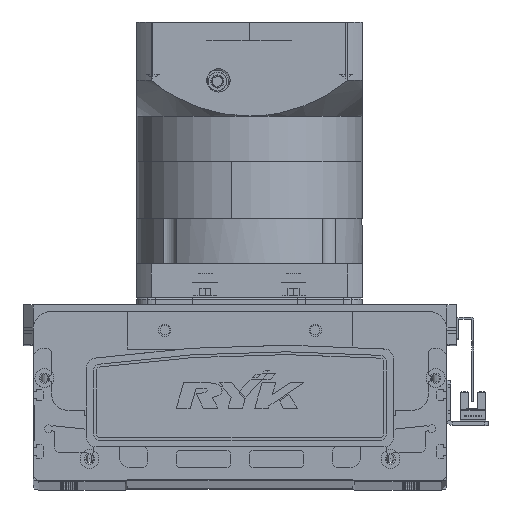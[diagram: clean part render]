
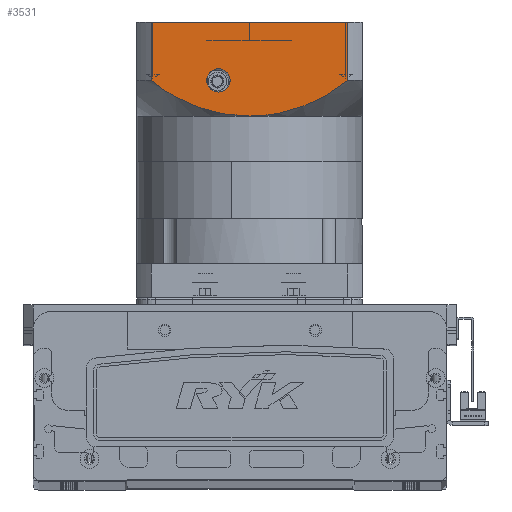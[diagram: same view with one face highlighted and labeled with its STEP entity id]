
A CAD part, top view. The second image highlights one B-rep face of the part: STEP entity #3531.
In plain terms, the highlighted planar face has unit normal (0, 0, 1) as drawn and (0, -1, 0) by its records, which use the part's own axes.
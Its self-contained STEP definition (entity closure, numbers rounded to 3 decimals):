
#7 = EDGE_CURVE ( 'NONE', #41147, #51037, #58910, .T. ) ;
#181 = CARTESIAN_POINT ( 'NONE',  ( 45.542, -60., -114.478 ) ) ;
#589 = CARTESIAN_POINT ( 'NONE',  ( -52.156, -60., -119.5 ) ) ;
#2094 = CARTESIAN_POINT ( 'NONE',  ( -35.342, -60., -108.587 ) ) ;
#2706 = CARTESIAN_POINT ( 'NONE',  ( 52.156, -60., -119.5 ) ) ;
#3531 = ADVANCED_FACE ( 'NONE', ( #8511, #17859 ), #68560, .T. ) ;
#3750 = EDGE_LOOP ( 'NONE', ( #32273, #46540 ) ) ;
#4028 = CARTESIAN_POINT ( 'NONE',  ( 4.753, -60., -100.5 ) ) ;
#4467 = CARTESIAN_POINT ( 'NONE',  ( 16.5, -60., -119.5 ) ) ;
#4567 = VECTOR ( 'NONE', #12443, 1000. ) ;
#4964 = CARTESIAN_POINT ( 'NONE',  ( 18.739, -60., -102.681 ) ) ;
#5374 = LINE ( 'NONE', #66420, #54530 ) ;
#5443 = CARTESIAN_POINT ( 'NONE',  ( 52.156, -60., -119.5 ) ) ;
#5573 = CARTESIAN_POINT ( 'NONE',  ( 52.156, -60., -150.5 ) ) ;
#7561 = CARTESIAN_POINT ( 'NONE',  ( -29.939, -60., -106.183 ) ) ;
#7788 = CARTESIAN_POINT ( 'NONE',  ( -52.156, -60., -119.5 ) ) ;
#8511 = FACE_OUTER_BOUND ( 'NONE', #69989, .T. ) ;
#9277 = CARTESIAN_POINT ( 'NONE',  ( 16.5, -60., -113.25 ) ) ;
#9742 = CARTESIAN_POINT ( 'NONE',  ( 16.426, -60., -102.169 ) ) ;
#10429 = CARTESIAN_POINT ( 'NONE',  ( 19.894, -60., -102.964 ) ) ;
#12443 = DIRECTION ( 'NONE',  ( 1., 0., 0. ) ) ;
#13068 = VERTEX_POINT ( 'NONE', #34150 ) ;
#13284 = CARTESIAN_POINT ( 'NONE',  ( -48.52, -60., -116.438 ) ) ;
#13740 = CARTESIAN_POINT ( 'NONE',  ( -32.118, -60., -107.084 ) ) ;
#14759 = B_SPLINE_CURVE_WITH_KNOTS ( 'NONE', 3,
 ( #36483, #4028, #41912, #42130, #9742, #4964, #10429, #26108, #53780, #31547, #69474, #42369, #58796, #49505, #181, #70412, #32685, #5443 ),
 .UNSPECIFIED., .F., .F.,
 ( 4, 2, 2, 2, 2, 2, 2, 2, 4 ),
 ( 0., 0.014, 0.018, 0.021, 0.028, 0.042, 0.046, 0.05, 0.057 ),
 .UNSPECIFIED. ) ;
#16246 = CARTESIAN_POINT ( 'NONE',  ( 16.5, -60., -119.5 ) ) ;
#17859 = FACE_BOUND ( 'NONE', #3750, .T. ) ;
#18660 = EDGE_CURVE ( 'NONE', #62476, #38983, #55657, .T. ) ;
#18952 = CARTESIAN_POINT ( 'NONE',  ( -39.546, -60., -110.776 ) ) ;
#20124 = EDGE_CURVE ( 'NONE', #62476, #64697, #47794, .T. ) ;
#20655 = DIRECTION ( 'NONE',  ( 1., 0., 0. ) ) ;
#21131 = CARTESIAN_POINT ( 'NONE',  ( 16.5, -60., -125.75 ) ) ;
#21464 = ORIENTED_EDGE ( 'NONE', *, *, #37980, .F. ) ;
#23552 = CARTESIAN_POINT ( 'NONE',  ( -60., -60., -150.5 ) ) ;
#24142 = CARTESIAN_POINT ( 'NONE',  ( -44.656, -60., -113.73 ) ) ;
#24379 = CARTESIAN_POINT ( 'NONE',  ( -23.319, -60., -103.777 ) ) ;
#26108 = CARTESIAN_POINT ( 'NONE',  ( 23.329, -60., -103.886 ) ) ;
#26137 = ORIENTED_EDGE ( 'NONE', *, *, #68949, .T. ) ;
#27851 = DIRECTION ( 'NONE',  ( 0., 1., 0. ) ) ;
#29417 = CARTESIAN_POINT ( 'NONE',  ( -52.156, -60., -150.5 ) ) ;
#29617 = CARTESIAN_POINT ( 'NONE',  ( -38.51, -60., -110.207 ) ) ;
#31321 = CARTESIAN_POINT ( 'NONE',  ( -60., -60., -150.5 ) ) ;
#31547 = CARTESIAN_POINT ( 'NONE',  ( 32.196, -60., -107.007 ) ) ;
#32273 = ORIENTED_EDGE ( 'NONE', *, *, #51542, .T. ) ;
#32292 = B_SPLINE_CURVE_WITH_KNOTS ( 'NONE', 3,
 ( #7788, #13284, #24142, #18952, #29617, #56843, #2094, #13740, #7561, #24379, #67556, #51172, #57097, #62563, #51640, #61613, #67103, #61856 ),
 .UNSPECIFIED., .F., .F.,
 ( 4, 2, 2, 2, 2, 2, 2, 2, 4 ),
 ( 0., 0.014, 0.018, 0.021, 0.028, 0.042, 0.046, 0.05, 0.057 ),
 .UNSPECIFIED. ) ;
#32685 = CARTESIAN_POINT ( 'NONE',  ( 50.338, -60., -117.969 ) ) ;
#34150 = CARTESIAN_POINT ( 'NONE',  ( 0., -60., -100.5 ) ) ;
#35675 = AXIS2_PLACEMENT_3D ( 'NONE', #31321, #63335, #20655 ) ;
#36483 = CARTESIAN_POINT ( 'NONE',  ( 0., -60., -100.5 ) ) ;
#37980 = EDGE_CURVE ( 'NONE', #13068, #48637, #14759, .T. ) ;
#38983 = VERTEX_POINT ( 'NONE', #589 ) ;
#39560 = DIRECTION ( 'NONE',  ( 0., 0., 1. ) ) ;
#41147 = VERTEX_POINT ( 'NONE', #9277 ) ;
#41912 = CARTESIAN_POINT ( 'NONE',  ( 9.454, -60., -100.914 ) ) ;
#42130 = CARTESIAN_POINT ( 'NONE',  ( 15.267, -60., -101.938 ) ) ;
#42369 = CARTESIAN_POINT ( 'NONE',  ( 41.545, -60., -111.931 ) ) ;
#44376 = DIRECTION ( 'NONE',  ( 0., 0., -1. ) ) ;
#44768 = DIRECTION ( 'NONE',  ( 0., 0., 1. ) ) ;
#46540 = ORIENTED_EDGE ( 'NONE', *, *, #7, .T. ) ;
#47794 = LINE ( 'NONE', #23552, #4567 ) ;
#48637 = VERTEX_POINT ( 'NONE', #2706 ) ;
#49505 = CARTESIAN_POINT ( 'NONE',  ( 44.553, -60., -113.817 ) ) ;
#50042 = CARTESIAN_POINT ( 'NONE',  ( -52.156, -60., -97.5 ) ) ;
#51037 = VERTEX_POINT ( 'NONE', #21131 ) ;
#51172 = CARTESIAN_POINT ( 'NONE',  ( -12.993, -60., -101.537 ) ) ;
#51375 = EDGE_CURVE ( 'NONE', #38983, #13068, #32292, .T. ) ;
#51542 = EDGE_CURVE ( 'NONE', #51037, #41147, #68265, .T. ) ;
#51640 = CARTESIAN_POINT ( 'NONE',  ( -8.294, -60., -100.916 ) ) ;
#53732 = DIRECTION ( 'NONE',  ( 0., 1., 0. ) ) ;
#53780 = CARTESIAN_POINT ( 'NONE',  ( 25.577, -60., -104.596 ) ) ;
#54530 = VECTOR ( 'NONE', #44768, 1000. ) ;
#55657 = LINE ( 'NONE', #50042, #61587 ) ;
#56843 = CARTESIAN_POINT ( 'NONE',  ( -36.409, -60., -109.113 ) ) ;
#57097 = CARTESIAN_POINT ( 'NONE',  ( -11.825, -60., -101.356 ) ) ;
#57725 = ORIENTED_EDGE ( 'NONE', *, *, #18660, .F. ) ;
#58796 = CARTESIAN_POINT ( 'NONE',  ( 42.555, -60., -112.543 ) ) ;
#58910 = CIRCLE ( 'NONE', #68199, 6.25 ) ;
#59827 = ORIENTED_EDGE ( 'NONE', *, *, #20124, .T. ) ;
#61587 = VECTOR ( 'NONE', #39560, 1000. ) ;
#61613 = CARTESIAN_POINT ( 'NONE',  ( -4.747, -60., -100.604 ) ) ;
#61856 = CARTESIAN_POINT ( 'NONE',  ( 0., -60., -100.5 ) ) ;
#62476 = VERTEX_POINT ( 'NONE', #29417 ) ;
#62563 = CARTESIAN_POINT ( 'NONE',  ( -9.477, -60., -101.046 ) ) ;
#63335 = DIRECTION ( 'NONE',  ( 0., -1., 0. ) ) ;
#64697 = VERTEX_POINT ( 'NONE', #5573 ) ;
#65756 = AXIS2_PLACEMENT_3D ( 'NONE', #4467, #53732, #69896 ) ;
#65841 = ORIENTED_EDGE ( 'NONE', *, *, #51375, .F. ) ;
#66420 = CARTESIAN_POINT ( 'NONE',  ( 52.156, -60., -150.5 ) ) ;
#67103 = CARTESIAN_POINT ( 'NONE',  ( -2.376, -60., -100.5 ) ) ;
#67556 = CARTESIAN_POINT ( 'NONE',  ( -18.792, -60., -102.562 ) ) ;
#68199 = AXIS2_PLACEMENT_3D ( 'NONE', #16246, #27851, #44376 ) ;
#68265 = CIRCLE ( 'NONE', #65756, 6.25 ) ;
#68560 = PLANE ( 'NONE',  #35675 ) ;
#68949 = EDGE_CURVE ( 'NONE', #64697, #48637, #5374, .T. ) ;
#69474 = CARTESIAN_POINT ( 'NONE',  ( 36.444, -60., -108.986 ) ) ;
#69896 = DIRECTION ( 'NONE',  ( 0., 0., -1. ) ) ;
#69989 = EDGE_LOOP ( 'NONE', ( #57725, #59827, #26137, #21464, #65841 ) ) ;
#70412 = CARTESIAN_POINT ( 'NONE',  ( 48.457, -60., -116.522 ) ) ;
